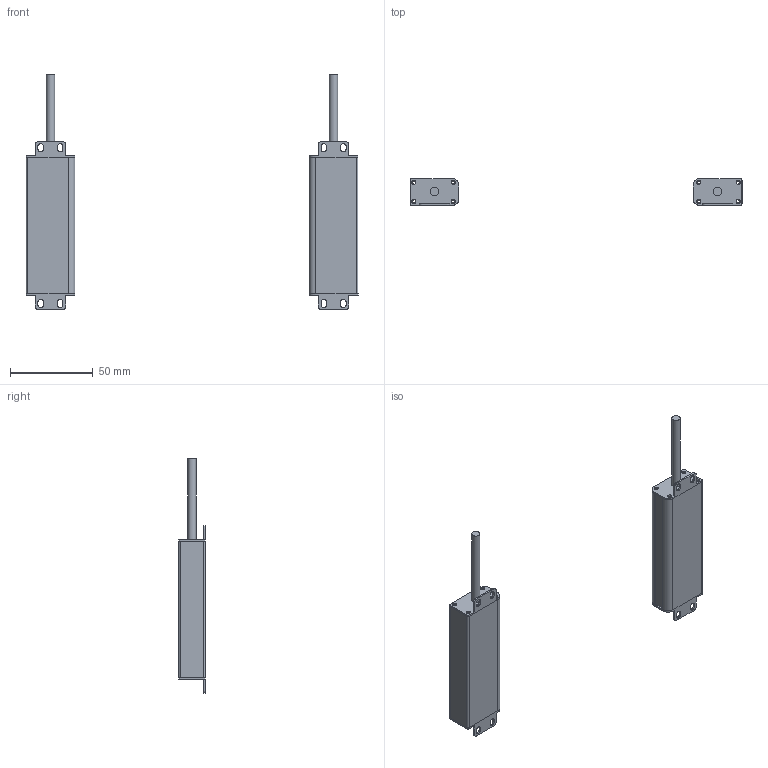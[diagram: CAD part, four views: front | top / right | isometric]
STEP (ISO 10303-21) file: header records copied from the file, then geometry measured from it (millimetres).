
FILE_DESCRIPTION(/* description */ (''),/* implementation_level */ '2;1');
FILE_NAME(/* name */ '0810（16X30w).stp',/* time_stamp */ '2020-07-29T09:11:28+08:00',/* author */ (''),/* organization */ (''),/* preprocessor_version */ 'ST-DEVELOPER v16',/* originating_system */ 'SIEMENS PLM Software NX 10.0',/* authorisation */ '');
FILE_SCHEMA (('AP203_CONFIGURATION_CONTROLLED_3D_DESIGN_OF_MECHANICAL_PARTS_AND_ASSEMBLIES_MIM_LF { 1 0 10303 403 2 1 2}'));
Length unit declared in the file: millimetre
Products named in the file (1): Admi1D6CCE1Dsrfb
Bounding box: 200 x 16 x 141.5 mm (x, y, z)
Volume: 27352.8 mm3; surface area: 41417 mm2
Topology: 10 solids, 10 shells, 296 faces, 830 edges, 554 vertices
Faces by surface type: plane 160, cylinder 136
Full cylindrical faces by diameter (mm): 5 x2
Entity records: 9760 total; most frequent: DIRECTION 1692, CARTESIAN_POINT 1675, ORIENTED_EDGE 1652, EDGE_CURVE 826, AXIS2_PLACEMENT_3D 569, LINE 554, VECTOR 554, VERTEX_POINT 552
